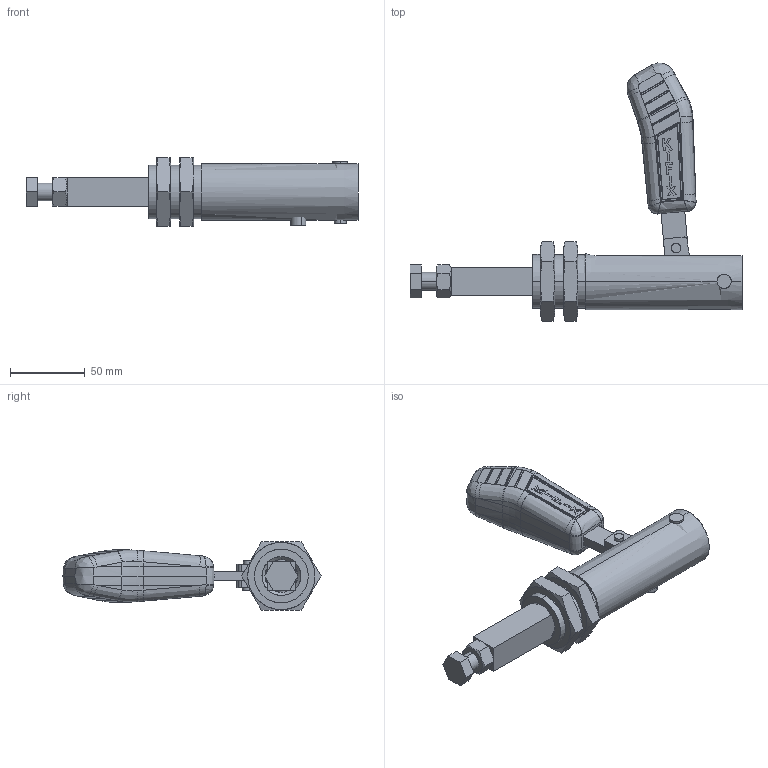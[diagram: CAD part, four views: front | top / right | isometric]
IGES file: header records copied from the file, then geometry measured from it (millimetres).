
Start section: SolidWorks IGES file using analytic representation for surfaces
Global section: file name: C:\Projetos\Grampos\KFKT-012\KFKT-012 F\KFKT-012 F.IGS; native system: SolidWorks 2015; preprocessor: SolidWorks 2015; author: Ricardo; date: 161020.150904; units: millimetre
Bounding box: 222.34 x 172.83 x 46 mm (x, y, z)
Surface area: 91562.2 mm2 (no closed solid volume)
Topology: 0 solids, 0 shells, 629 faces, 7574 edges, 7545 vertices
Faces by surface type: bspline 375, revolution 254
